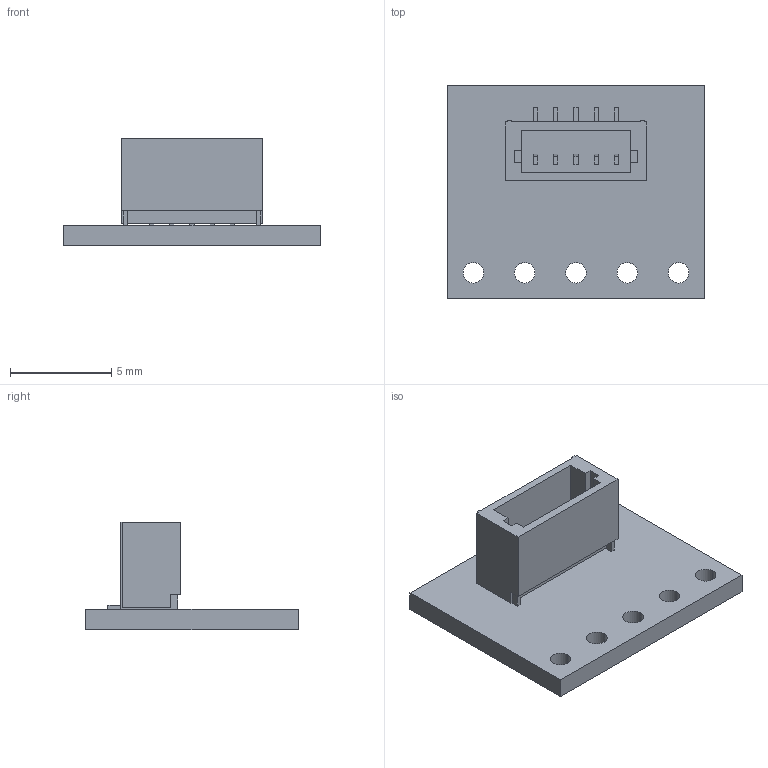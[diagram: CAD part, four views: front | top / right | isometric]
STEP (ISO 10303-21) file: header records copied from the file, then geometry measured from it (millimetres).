
FILE_DESCRIPTION (( 'STEP AP214' ), '1' );
FILE_NAME ('con07a_top.step', '2025-06-12T20:42:44', ( '' ), ( '' ), 'SwSTEP 2.0', 'SolidWorks 2025', '' );
FILE_SCHEMA (( 'AUTOMOTIVE_DESIGN' ));
Length unit declared in the file: millimetre
Products named in the file (1): con07a_top
Bounding box: 12.7 x 10.54 x 5.34 mm (x, y, z)
Volume: 182 mm3; surface area: 508.5 mm2
Topology: 1 solids, 1 shells, 476 faces, 1296 edges, 864 vertices
Faces by surface type: plane 290, bspline 176, cylinder 10
Entity records: 26629 total; most frequent: CARTESIAN_POINT 10629, ORIENTED_EDGE 2592, DIRECTION 1566, EDGE_CURVE 1296, LINE 924, VECTOR 924, VERTEX_POINT 864, EDGE_LOOP 540
